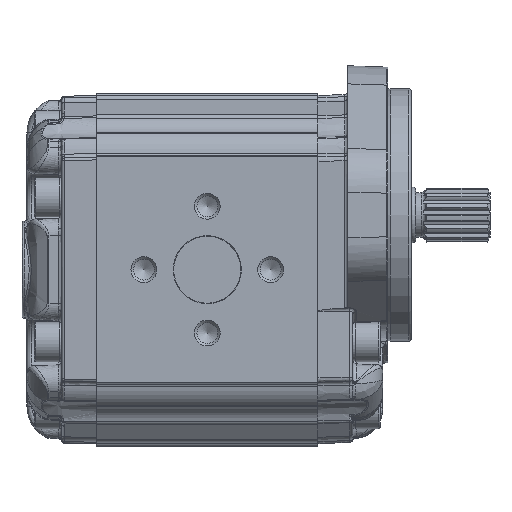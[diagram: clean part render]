
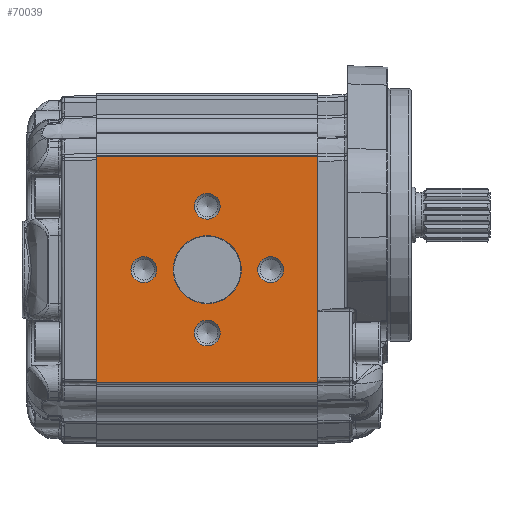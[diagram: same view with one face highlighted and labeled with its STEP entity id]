
A CAD part, left-side view. The second image highlights one B-rep face of the part: STEP entity #70039.
In plain terms, the highlighted planar face has unit normal (-1, 0, 0).
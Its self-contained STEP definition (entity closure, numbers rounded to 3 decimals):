
#8117=LINE('',#122495,#10131);
#8128=LINE('',#122580,#10142);
#8166=LINE('',#122688,#10180);
#8167=LINE('',#122689,#10181);
#10131=VECTOR('',#77579,1000.);
#10142=VECTOR('',#77654,1000.);
#10180=VECTOR('',#77780,1000.);
#10181=VECTOR('',#77781,1000.);
#16503=ORIENTED_EDGE('',*,*,#29296,.T.);
#16504=ORIENTED_EDGE('',*,*,#29297,.T.);
#16505=ORIENTED_EDGE('',*,*,#29298,.T.);
#16506=ORIENTED_EDGE('',*,*,#29299,.T.);
#16507=ORIENTED_EDGE('',*,*,#29300,.T.);
#16508=ORIENTED_EDGE('',*,*,#29200,.F.);
#16509=ORIENTED_EDGE('',*,*,#29301,.T.);
#16510=ORIENTED_EDGE('',*,*,#29242,.F.);
#16511=ORIENTED_EDGE('',*,*,#29302,.T.);
#29200=EDGE_CURVE('',#35925,#35926,#8117,.T.);
#29242=EDGE_CURVE('',#35967,#35968,#8128,.T.);
#29296=EDGE_CURVE('',#35989,#35989,#39784,.F.);
#29297=EDGE_CURVE('',#35990,#35990,#39785,.F.);
#29298=EDGE_CURVE('',#35991,#35991,#39786,.F.);
#29299=EDGE_CURVE('',#35992,#35992,#39787,.F.);
#29300=EDGE_CURVE('',#35993,#35993,#39788,.F.);
#29301=EDGE_CURVE('',#35925,#35968,#8166,.F.);
#29302=EDGE_CURVE('',#35967,#35926,#8167,.F.);
#35925=VERTEX_POINT('',#122494);
#35926=VERTEX_POINT('',#122496);
#35967=VERTEX_POINT('',#122579);
#35968=VERTEX_POINT('',#122581);
#35989=VERTEX_POINT('',#122679);
#35990=VERTEX_POINT('',#122681);
#35991=VERTEX_POINT('',#122683);
#35992=VERTEX_POINT('',#122685);
#35993=VERTEX_POINT('',#122687);
#39784=CIRCLE('',#73302,5.188);
#39785=CIRCLE('',#73303,5.188);
#39786=CIRCLE('',#73304,5.188);
#39787=CIRCLE('',#73305,5.188);
#39788=CIRCLE('',#73306,13.7);
#41125=EDGE_LOOP('',(#16503));
#41126=EDGE_LOOP('',(#16504));
#41127=EDGE_LOOP('',(#16505));
#41128=EDGE_LOOP('',(#16506));
#41129=EDGE_LOOP('',(#16507));
#41130=EDGE_LOOP('',(#16508,#16509,#16510,#16511));
#44484=FACE_BOUND('',#41125,.T.);
#44485=FACE_BOUND('',#41126,.T.);
#44486=FACE_BOUND('',#41127,.T.);
#44487=FACE_BOUND('',#41128,.T.);
#44488=FACE_BOUND('',#41129,.T.);
#44489=FACE_BOUND('',#41130,.T.);
#46925=PLANE('',#73301);
#70039=ADVANCED_FACE('',(#44484,#44485,#44486,#44487,#44488,#44489),#46925,
 .T.);
#73301=AXIS2_PLACEMENT_3D('',#122677,#77768,#77769);
#73302=AXIS2_PLACEMENT_3D('',#122678,#77770,#77771);
#73303=AXIS2_PLACEMENT_3D('',#122680,#77772,#77773);
#73304=AXIS2_PLACEMENT_3D('',#122682,#77774,#77775);
#73305=AXIS2_PLACEMENT_3D('',#122684,#77776,#77777);
#73306=AXIS2_PLACEMENT_3D('',#122686,#77778,#77779);
#77579=DIRECTION('',(0.,0.,1.));
#77654=DIRECTION('',(0.,0.,-1.));
#77768=DIRECTION('',(-1.,0.,0.));
#77769=DIRECTION('',(0.,0.,-1.));
#77770=DIRECTION('',(-1.,0.,0.));
#77771=DIRECTION('',(0.,0.,-1.));
#77772=DIRECTION('',(-1.,0.,0.));
#77773=DIRECTION('',(0.,0.,-1.));
#77774=DIRECTION('',(-1.,0.,0.));
#77775=DIRECTION('',(0.,0.,-1.));
#77776=DIRECTION('',(-1.,0.,0.));
#77777=DIRECTION('',(0.,0.,-1.));
#77778=DIRECTION('',(-1.,0.,0.));
#77779=DIRECTION('',(0.,0.,-1.));
#77780=DIRECTION('',(0.,1.,0.));
#77781=DIRECTION('',(0.,-1.,0.));
#122494=CARTESIAN_POINT('',(-57.5,89.,-45.5));
#122495=CARTESIAN_POINT('',(-57.5,89.,-84.819));
#122496=CARTESIAN_POINT('',(-57.5,89.,45.5));
#122579=CARTESIAN_POINT('',(-57.5,0.,45.5));
#122580=CARTESIAN_POINT('',(-57.5,0.,-44.978));
#122581=CARTESIAN_POINT('',(-57.5,0.,-45.5));
#122677=CARTESIAN_POINT('',(-57.5,-140.475,-84.819));
#122678=CARTESIAN_POINT('',(-57.5,44.5,25.5));
#122679=CARTESIAN_POINT('',(-57.5,44.5,20.312));
#122680=CARTESIAN_POINT('',(-57.5,70.,0.));
#122681=CARTESIAN_POINT('',(-57.5,70.,-5.188));
#122682=CARTESIAN_POINT('',(-57.5,44.5,-25.5));
#122683=CARTESIAN_POINT('',(-57.5,44.5,-30.688));
#122684=CARTESIAN_POINT('',(-57.5,19.,0.));
#122685=CARTESIAN_POINT('',(-57.5,19.,-5.188));
#122686=CARTESIAN_POINT('',(-57.5,44.5,0.));
#122687=CARTESIAN_POINT('',(-57.5,44.5,-13.7));
#122688=CARTESIAN_POINT('',(-57.5,-140.475,-45.5));
#122689=CARTESIAN_POINT('',(-57.5,-140.475,45.5));
